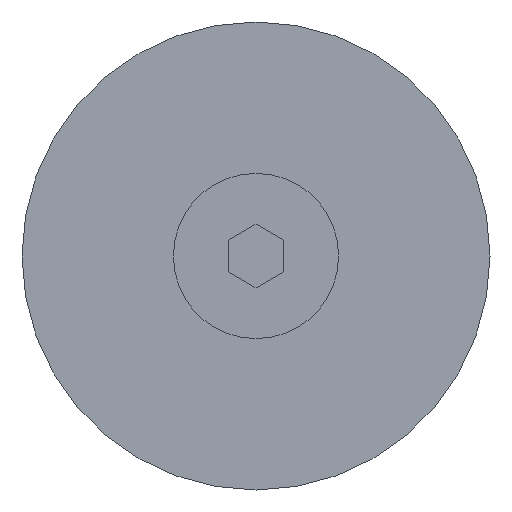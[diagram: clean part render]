
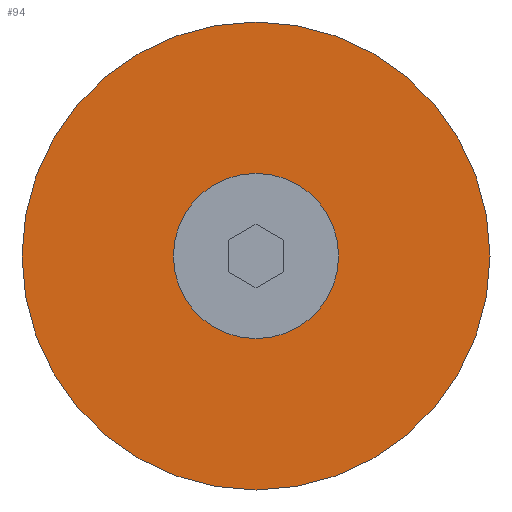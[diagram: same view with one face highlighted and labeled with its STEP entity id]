
A CAD part, front view. The second image highlights one B-rep face of the part: STEP entity #94.
In plain terms, the highlighted planar face has unit normal (0, -1, 0).
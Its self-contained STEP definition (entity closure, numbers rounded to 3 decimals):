
#94=ADVANCED_FACE('',(#167,#168),#169,.F.);
#167=FACE_OUTER_BOUND('',#275,.T.);
#168=FACE_BOUND('',#276,.T.);
#169=PLANE('',#277);
#275=EDGE_LOOP('',(#487,#488));
#276=EDGE_LOOP('',(#489,#490));
#277=AXIS2_PLACEMENT_3D('',#491,#492,#493);
#487=ORIENTED_EDGE('',*,*,#739,.T.);
#488=ORIENTED_EDGE('',*,*,#784,.T.);
#489=ORIENTED_EDGE('',*,*,#741,.F.);
#490=ORIENTED_EDGE('',*,*,#783,.F.);
#491=CARTESIAN_POINT('',(-13.4,-9.0,0.0));
#492=DIRECTION('',(0.0,1.0,0.0));
#493=DIRECTION('',(1.0,0.0,-0.0));
#739=EDGE_CURVE('',#870,#868,#871,.T.);
#741=EDGE_CURVE('',#873,#874,#875,.T.);
#783=EDGE_CURVE('',#874,#873,#947,.T.);
#784=EDGE_CURVE('',#868,#870,#948,.T.);
#868=VERTEX_POINT('',#1066);
#870=VERTEX_POINT('',#1069);
#871=CIRCLE('',#1070,17.0);
#873=VERTEX_POINT('',#1073);
#874=VERTEX_POINT('',#1074);
#875=CIRCLE('',#1075,6.0);
#947=CIRCLE('',#1181,6.0);
#948=CIRCLE('',#1182,17.0);
#1066=CARTESIAN_POINT('',(3.6,-9.0,17.0));
#1069=CARTESIAN_POINT('',(3.6,-9.0,-17.0));
#1070=AXIS2_PLACEMENT_3D('',#1333,#1334,#1335);
#1073=CARTESIAN_POINT('',(3.6,-9.0,-6.0));
#1074=CARTESIAN_POINT('',(3.6,-9.0,6.0));
#1075=AXIS2_PLACEMENT_3D('',#1337,#1338,#1339);
#1181=AXIS2_PLACEMENT_3D('',#1395,#1396,#1397);
#1182=AXIS2_PLACEMENT_3D('',#1398,#1399,#1400);
#1333=CARTESIAN_POINT('',(3.6,-9.0,0.0));
#1334=DIRECTION('',(0.0,-1.0,0.0));
#1335=DIRECTION('',(0.0,0.0,-1.0));
#1337=CARTESIAN_POINT('',(3.6,-9.0,0.0));
#1338=DIRECTION('',(0.0,-1.0,0.0));
#1339=DIRECTION('',(0.0,0.0,-1.0));
#1395=CARTESIAN_POINT('',(3.6,-9.0,0.0));
#1396=DIRECTION('',(0.0,-1.0,0.0));
#1397=DIRECTION('',(0.0,0.0,-1.0));
#1398=CARTESIAN_POINT('',(3.6,-9.0,0.0));
#1399=DIRECTION('',(0.0,-1.0,0.0));
#1400=DIRECTION('',(0.0,0.0,-1.0));
